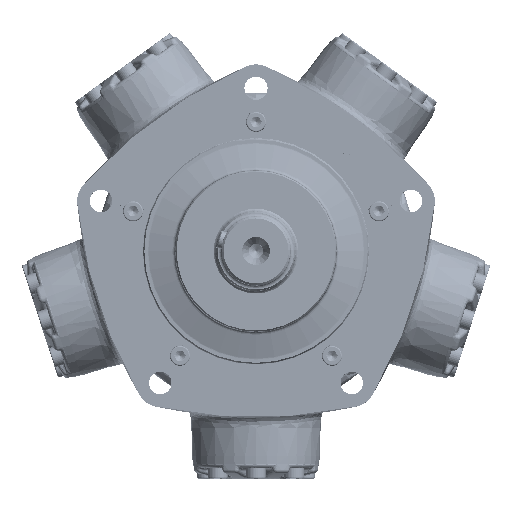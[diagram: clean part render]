
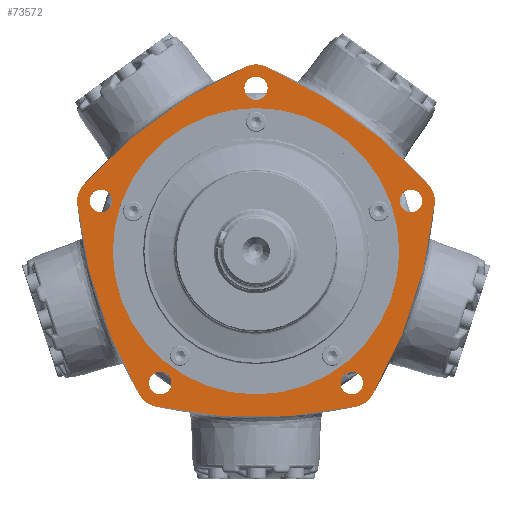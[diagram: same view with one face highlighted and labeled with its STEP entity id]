
A CAD part, top view. The second image highlights one B-rep face of the part: STEP entity #73572.
In plain terms, the highlighted planar face has unit normal (0, 0, 1).
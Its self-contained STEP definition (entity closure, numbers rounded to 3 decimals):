
#3348=FACE_BOUND($,#19244,.T.);
#3349=FACE_BOUND($,#19245,.T.);
#3350=FACE_BOUND($,#19246,.T.);
#3351=FACE_BOUND($,#19247,.T.);
#3352=FACE_BOUND($,#19248,.T.);
#3353=FACE_BOUND($,#19249,.T.);
#3354=FACE_BOUND($,#19250,.T.);
#10337=CIRCLE($,#79179,19.05);
#10350=CIRCLE($,#79202,19.05);
#10375=CIRCLE($,#79265,381.);
#10394=CIRCLE($,#79291,381.);
#10418=CIRCLE($,#79323,381.);
#10423=CIRCLE($,#79329,19.05);
#10425=CIRCLE($,#79332,381.);
#10427=CIRCLE($,#79335,19.05);
#10429=CIRCLE($,#79338,381.);
#10431=CIRCLE($,#79341,19.05);
#10432=CIRCLE($,#79343,9.25);
#10433=CIRCLE($,#79344,9.);
#10434=CIRCLE($,#79345,9.);
#10435=CIRCLE($,#79346,9.);
#10436=CIRCLE($,#79347,9.);
#10437=CIRCLE($,#79348,114.319);
#19244=EDGE_LOOP($,(#51311));
#19245=EDGE_LOOP($,(#51312));
#19246=EDGE_LOOP($,(#51313));
#19247=EDGE_LOOP($,(#51314));
#19248=EDGE_LOOP($,(#51315));
#19249=EDGE_LOOP($,(#51316));
#19250=EDGE_LOOP($,(#51317,#51318,#51319,#51320,#51321,#51322,#51323,#51324,
#51325,#51326));
#30375=VERTEX_POINT($,#127084);
#30376=VERTEX_POINT($,#127085);
#30394=VERTEX_POINT($,#127217);
#30395=VERTEX_POINT($,#127218);
#30520=VERTEX_POINT($,#135549);
#30545=VERTEX_POINT($,#136698);
#30581=VERTEX_POINT($,#139020);
#30583=VERTEX_POINT($,#139026);
#30584=VERTEX_POINT($,#139031);
#30586=VERTEX_POINT($,#139037);
#30587=VERTEX_POINT($,#139044);
#30588=VERTEX_POINT($,#139046);
#30589=VERTEX_POINT($,#139048);
#30590=VERTEX_POINT($,#139050);
#30591=VERTEX_POINT($,#139052);
#30592=VERTEX_POINT($,#139054);
#37733=EDGE_CURVE($,#30375,#30376,#10337,.T.);
#37758=EDGE_CURVE($,#30394,#30395,#10350,.T.);
#37937=EDGE_CURVE($,#30520,#30394,#10375,.T.);
#37989=EDGE_CURVE($,#30376,#30545,#10394,.T.);
#38058=EDGE_CURVE($,#30395,#30375,#10418,.T.);
#38069=EDGE_CURVE($,#30581,#30520,#10423,.T.);
#38072=EDGE_CURVE($,#30583,#30581,#10425,.T.);
#38075=EDGE_CURVE($,#30584,#30583,#10427,.T.);
#38078=EDGE_CURVE($,#30586,#30584,#10429,.T.);
#38081=EDGE_CURVE($,#30545,#30586,#10431,.T.);
#38082=EDGE_CURVE($,#30587,#30587,#10432,.T.);
#38083=EDGE_CURVE($,#30588,#30588,#10433,.T.);
#38084=EDGE_CURVE($,#30589,#30589,#10434,.T.);
#38085=EDGE_CURVE($,#30590,#30590,#10435,.T.);
#38086=EDGE_CURVE($,#30591,#30591,#10436,.T.);
#38087=EDGE_CURVE($,#30592,#30592,#10437,.T.);
#51311=ORIENTED_EDGE($,*,*,#38082,.T.);
#51312=ORIENTED_EDGE($,*,*,#38083,.T.);
#51313=ORIENTED_EDGE($,*,*,#38084,.T.);
#51314=ORIENTED_EDGE($,*,*,#38085,.T.);
#51315=ORIENTED_EDGE($,*,*,#38086,.T.);
#51316=ORIENTED_EDGE($,*,*,#38087,.T.);
#51317=ORIENTED_EDGE($,*,*,#37937,.F.);
#51318=ORIENTED_EDGE($,*,*,#38069,.F.);
#51319=ORIENTED_EDGE($,*,*,#38072,.F.);
#51320=ORIENTED_EDGE($,*,*,#38075,.F.);
#51321=ORIENTED_EDGE($,*,*,#38078,.F.);
#51322=ORIENTED_EDGE($,*,*,#38081,.F.);
#51323=ORIENTED_EDGE($,*,*,#37989,.F.);
#51324=ORIENTED_EDGE($,*,*,#37733,.F.);
#51325=ORIENTED_EDGE($,*,*,#38058,.F.);
#51326=ORIENTED_EDGE($,*,*,#37758,.F.);
#66517=PLANE($,#79342);
#73572=ADVANCED_FACE($,(#3348,#3349,#3350,#3351,#3352,#3353,#3354),#66517,
 .F.);
#79179=AXIS2_PLACEMENT_3D($,#127086,#88448,#88449);
#79202=AXIS2_PLACEMENT_3D($,#127219,#88499,#88500);
#79265=AXIS2_PLACEMENT_3D($,#135550,#88650,#88651);
#79291=AXIS2_PLACEMENT_3D($,#136699,#88707,#88708);
#79323=AXIS2_PLACEMENT_3D($,#138594,#88775,#88776);
#79329=AXIS2_PLACEMENT_3D($,#139021,#88787,#88788);
#79332=AXIS2_PLACEMENT_3D($,#139027,#88794,#88795);
#79335=AXIS2_PLACEMENT_3D($,#139032,#88801,#88802);
#79338=AXIS2_PLACEMENT_3D($,#139038,#88808,#88809);
#79341=AXIS2_PLACEMENT_3D($,#139042,#88815,#88816);
#79342=AXIS2_PLACEMENT_3D($,#139043,#88817,#88818);
#79343=AXIS2_PLACEMENT_3D($,#139045,#88819,#88820);
#79344=AXIS2_PLACEMENT_3D($,#139047,#88821,#88822);
#79345=AXIS2_PLACEMENT_3D($,#139049,#88823,#88824);
#79346=AXIS2_PLACEMENT_3D($,#139051,#88825,#88826);
#79347=AXIS2_PLACEMENT_3D($,#139053,#88827,#88828);
#79348=AXIS2_PLACEMENT_3D($,#139055,#88829,#88830);
#88448=DIRECTION('center_axis',(0.,0.,-1.));
#88449=DIRECTION('ref_axis',(-0.404,-0.915,0.));
#88499=DIRECTION('center_axis',(0.,0.,-1.));
#88500=DIRECTION('ref_axis',(0.745,-0.667,0.));
#88650=DIRECTION('center_axis',(0.,0.,-1.));
#88651=DIRECTION('ref_axis',(0.995,0.101,0.));
#88707=DIRECTION('center_axis',(0.,0.,-1.));
#88708=DIRECTION('ref_axis',(-0.745,-0.667,0.));
#88775=DIRECTION('center_axis',(0.,0.,-1.));
#88776=DIRECTION('ref_axis',(0.404,-0.915,0.));
#88787=DIRECTION('center_axis',(0.,0.,-1.));
#88788=DIRECTION('ref_axis',(0.864,0.503,0.));
#88794=DIRECTION('center_axis',(0.,0.,-1.));
#88795=DIRECTION('ref_axis',(0.211,0.977,0.));
#88801=DIRECTION('center_axis',(0.,0.,-1.));
#88802=DIRECTION('ref_axis',(-0.211,0.977,0.));
#88808=DIRECTION('center_axis',(0.,0.,-1.));
#88809=DIRECTION('ref_axis',(-0.864,0.503,0.));
#88815=DIRECTION('center_axis',(0.,0.,-1.));
#88816=DIRECTION('ref_axis',(-0.995,0.101,0.));
#88817=DIRECTION('center_axis',(0.,0.,-1.));
#88818=DIRECTION('ref_axis',(-1.,0.,0.));
#88819=DIRECTION('center_axis',(0.,0.,-1.));
#88820=DIRECTION('ref_axis',(1.,0.,0.));
#88821=DIRECTION('center_axis',(0.,0.,-1.));
#88822=DIRECTION('ref_axis',(0.309,-0.951,0.));
#88823=DIRECTION('center_axis',(0.,0.,-1.));
#88824=DIRECTION('ref_axis',(-0.809,-0.588,0.));
#88825=DIRECTION('center_axis',(0.,0.,-1.));
#88826=DIRECTION('ref_axis',(-0.809,0.588,0.));
#88827=DIRECTION('center_axis',(0.,0.,-1.));
#88828=DIRECTION('ref_axis',(0.309,0.951,0.));
#88829=DIRECTION('center_axis',(0.,0.,-1.));
#88830=DIRECTION('ref_axis',(-1.,0.,0.));
#127084=CARTESIAN_POINT('',(-7.69,147.477,34.849));
#127085=CARTESIAN_POINT('',(7.69,147.477,34.849));
#127086=CARTESIAN_POINT('Origin',(0.,130.048,
34.849));
#127217=CARTESIAN_POINT('',(-142.635,38.259,34.849));
#127218=CARTESIAN_POINT('',(-137.883,52.886,34.849));
#127219=CARTESIAN_POINT('Origin',(-123.683,40.187,34.849));
#135549=CARTESIAN_POINT('',(-92.906,-114.791,34.849));
#135550=CARTESIAN_POINT('Origin',(236.409,76.814,34.849));
#136698=CARTESIAN_POINT('',(137.883,52.886,34.849));
#136699=CARTESIAN_POINT('Origin',(-146.109,-201.102,34.849));
#138594=CARTESIAN_POINT('Origin',(146.109,-201.102,34.849));
#139020=CARTESIAN_POINT('',(-80.463,-123.831,34.849));
#139021=CARTESIAN_POINT('Origin',(-76.44,-105.211,34.849));
#139026=CARTESIAN_POINT('',(80.463,-123.831,34.849));
#139027=CARTESIAN_POINT('Origin',(0.,248.575,
34.849));
#139031=CARTESIAN_POINT('',(92.906,-114.791,34.849));
#139032=CARTESIAN_POINT('Origin',(76.44,-105.211,34.849));
#139037=CARTESIAN_POINT('',(142.635,38.259,34.849));
#139038=CARTESIAN_POINT('Origin',(-236.409,76.814,34.849));
#139042=CARTESIAN_POINT('Origin',(123.683,40.187,34.849));
#139043=CARTESIAN_POINT('Origin',(0.,152.897,34.849));
#139044=CARTESIAN_POINT('',(-9.25,130.048,34.849));
#139045=CARTESIAN_POINT('Origin',(0.,130.048,
34.849));
#139046=CARTESIAN_POINT('',(120.902,48.747,34.849));
#139047=CARTESIAN_POINT('Origin',(123.683,40.187,34.849));
#139048=CARTESIAN_POINT('',(83.721,-99.921,34.849));
#139049=CARTESIAN_POINT('Origin',(76.44,-105.211,34.849));
#139050=CARTESIAN_POINT('',(-69.159,-110.501,34.849));
#139051=CARTESIAN_POINT('Origin',(-76.44,-105.211,34.849));
#139052=CARTESIAN_POINT('',(-126.464,31.628,34.849));
#139053=CARTESIAN_POINT('Origin',(-123.683,40.187,34.849));
#139054=CARTESIAN_POINT('',(114.319,0.,34.849));
#139055=CARTESIAN_POINT('Origin',(0.,0.,34.849));
